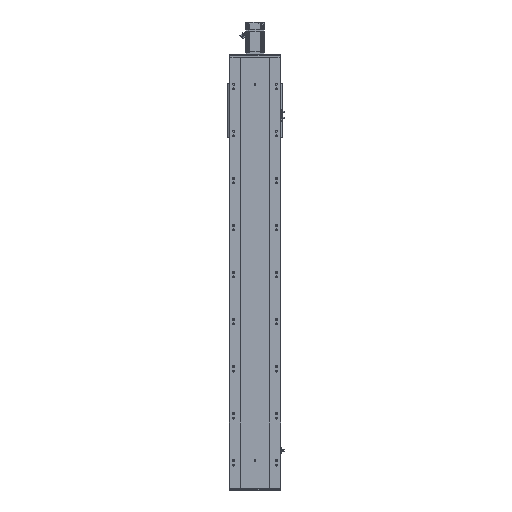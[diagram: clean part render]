
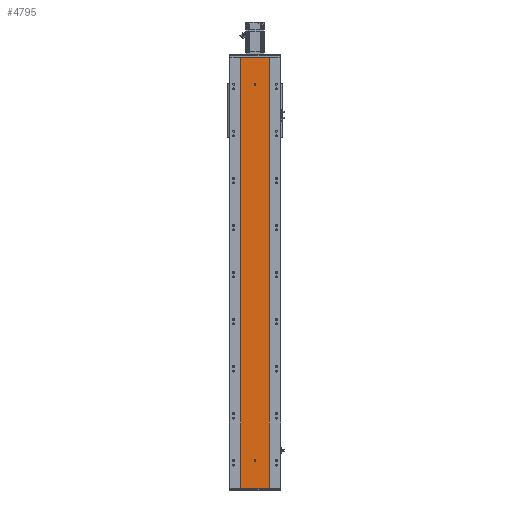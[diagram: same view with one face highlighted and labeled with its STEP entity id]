
A CAD part, front view. The second image highlights one B-rep face of the part: STEP entity #4795.
In plain terms, the highlighted planar face has unit normal (0, -1, 0).
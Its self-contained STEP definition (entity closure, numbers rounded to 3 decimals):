
#2554 = VECTOR ( 'NONE', #48215, 1000. ) ;
#3220 = EDGE_CURVE ( 'NONE', #46631, #50559, #49578, .T. ) ;
#4795 = ADVANCED_FACE ( 'NONE', ( #73198, #55766, #15214 ), #33874, .F. ) ;
#5215 = DIRECTION ( 'NONE',  ( 0., 0., -1. ) ) ;
#5734 = CARTESIAN_POINT ( 'NONE',  ( 0., 0., 1718. ) ) ;
#6494 = VERTEX_POINT ( 'NONE', #47432 ) ;
#6633 = CARTESIAN_POINT ( 'NONE',  ( 60., 0., 1832. ) ) ;
#8071 = AXIS2_PLACEMENT_3D ( 'NONE', #22478, #27140, #68258 ) ;
#8151 = DIRECTION ( 'NONE',  ( 0., -1., 0. ) ) ;
#10321 = EDGE_CURVE ( 'NONE', #6494, #26750, #31051, .T. ) ;
#10372 = ORIENTED_EDGE ( 'NONE', *, *, #56635, .F. ) ;
#11948 = ORIENTED_EDGE ( 'NONE', *, *, #45546, .F. ) ;
#13842 = VERTEX_POINT ( 'NONE', #6633 ) ;
#15214 = FACE_OUTER_BOUND ( 'NONE', #75668, .T. ) ;
#16434 = VERTEX_POINT ( 'NONE', #28429 ) ;
#17057 = DIRECTION ( 'NONE',  ( 0., -1., 0. ) ) ;
#17214 = ORIENTED_EDGE ( 'NONE', *, *, #32985, .F. ) ;
#17803 = CARTESIAN_POINT ( 'NONE',  ( 4., 0., 116.5 ) ) ;
#18108 = EDGE_CURVE ( 'NONE', #71158, #19240, #22827, .T. ) ;
#18109 = LINE ( 'NONE', #75957, #18994 ) ;
#18480 = DIRECTION ( 'NONE',  ( 0., 0., -1. ) ) ;
#18994 = VECTOR ( 'NONE', #47211, 1000. ) ;
#19240 = VERTEX_POINT ( 'NONE', #42285 ) ;
#19735 = EDGE_CURVE ( 'NONE', #19240, #71158, #47469, .T. ) ;
#20590 = AXIS2_PLACEMENT_3D ( 'NONE', #5734, #17057, #5215 ) ;
#22478 = CARTESIAN_POINT ( 'NONE',  ( 0., 0., 116.5 ) ) ;
#22522 = EDGE_LOOP ( 'NONE', ( #36994, #64650 ) ) ;
#22827 = CIRCLE ( 'NONE', #20590, 4. ) ;
#23961 = VERTEX_POINT ( 'NONE', #76309 ) ;
#25865 = DIRECTION ( 'NONE',  ( 0., 0., -1. ) ) ;
#26630 = DIRECTION ( 'NONE',  ( 0., -1., 0. ) ) ;
#26750 = VERTEX_POINT ( 'NONE', #70535 ) ;
#26793 = CARTESIAN_POINT ( 'NONE',  ( 0., 0., 1714. ) ) ;
#27140 = DIRECTION ( 'NONE',  ( 0., -1., 0. ) ) ;
#28429 = CARTESIAN_POINT ( 'NONE',  ( 4., 0., 119.5 ) ) ;
#28481 = AXIS2_PLACEMENT_3D ( 'NONE', #51711, #42201, #18480 ) ;
#29605 = LINE ( 'NONE', #72611, #62712 ) ;
#29930 = CARTESIAN_POINT ( 'NONE',  ( -60., 0., 0. ) ) ;
#31051 = CIRCLE ( 'NONE', #60574, 4. ) ;
#32985 = EDGE_CURVE ( 'NONE', #64820, #13842, #18109, .T. ) ;
#33305 = LINE ( 'NONE', #61278, #52615 ) ;
#33344 = CARTESIAN_POINT ( 'NONE',  ( -60., 0., 0. ) ) ;
#33874 = PLANE ( 'NONE',  #50023 ) ;
#34424 = ORIENTED_EDGE ( 'NONE', *, *, #75510, .F. ) ;
#35442 = CARTESIAN_POINT ( 'NONE',  ( -60., 0., 1832. ) ) ;
#35569 = CARTESIAN_POINT ( 'NONE',  ( 4., 0., 116.5 ) ) ;
#36994 = ORIENTED_EDGE ( 'NONE', *, *, #18108, .F. ) ;
#37318 = ORIENTED_EDGE ( 'NONE', *, *, #70830, .F. ) ;
#39037 = VECTOR ( 'NONE', #67974, 1000. ) ;
#39223 = ORIENTED_EDGE ( 'NONE', *, *, #10321, .F. ) ;
#39702 = ORIENTED_EDGE ( 'NONE', *, *, #64368, .T. ) ;
#40624 = AXIS2_PLACEMENT_3D ( 'NONE', #43435, #8151, #49362 ) ;
#40663 = CARTESIAN_POINT ( 'NONE',  ( -60., 0., 1832. ) ) ;
#42201 = DIRECTION ( 'NONE',  ( 0., -1., 0. ) ) ;
#42285 = CARTESIAN_POINT ( 'NONE',  ( 0., 0., 1722. ) ) ;
#42314 = ORIENTED_EDGE ( 'NONE', *, *, #3220, .T. ) ;
#43435 = CARTESIAN_POINT ( 'NONE',  ( 0., 0., 119.5 ) ) ;
#44384 = VECTOR ( 'NONE', #63858, 1000. ) ;
#45546 = EDGE_CURVE ( 'NONE', #23961, #6494, #29605, .T. ) ;
#46631 = VERTEX_POINT ( 'NONE', #33344 ) ;
#47211 = DIRECTION ( 'NONE',  ( 1., 0., 0. ) ) ;
#47250 = DIRECTION ( 'NONE',  ( 0., 1., 0. ) ) ;
#47432 = CARTESIAN_POINT ( 'NONE',  ( -4., 0., 116.5 ) ) ;
#47469 = CIRCLE ( 'NONE', #28481, 4. ) ;
#48215 = DIRECTION ( 'NONE',  ( 1., 0., 0. ) ) ;
#49362 = DIRECTION ( 'NONE',  ( 0., 0., -1. ) ) ;
#49578 = LINE ( 'NONE', #29930, #2554 ) ;
#50023 = AXIS2_PLACEMENT_3D ( 'NONE', #35442, #47250, #52877 ) ;
#50559 = VERTEX_POINT ( 'NONE', #53583 ) ;
#51256 = DIRECTION ( 'NONE',  ( 0., 0., -1. ) ) ;
#51602 = EDGE_CURVE ( 'NONE', #13842, #50559, #54635, .T. ) ;
#51711 = CARTESIAN_POINT ( 'NONE',  ( 0., 0., 1718. ) ) ;
#52615 = VECTOR ( 'NONE', #51256, 1000. ) ;
#52877 = DIRECTION ( 'NONE',  ( 0., 0., 1. ) ) ;
#53583 = CARTESIAN_POINT ( 'NONE',  ( 60., 0., 0. ) ) ;
#54635 = LINE ( 'NONE', #68486, #39037 ) ;
#55766 = FACE_BOUND ( 'NONE', #71944, .T. ) ;
#56635 = EDGE_CURVE ( 'NONE', #16434, #23961, #61179, .T. ) ;
#60574 = AXIS2_PLACEMENT_3D ( 'NONE', #61072, #26630, #25865 ) ;
#60819 = DIRECTION ( 'NONE',  ( 0., 0., -1. ) ) ;
#61072 = CARTESIAN_POINT ( 'NONE',  ( 0., 0., 116.5 ) ) ;
#61179 = CIRCLE ( 'NONE', #40624, 4. ) ;
#61278 = CARTESIAN_POINT ( 'NONE',  ( -60., 0., 1832. ) ) ;
#62712 = VECTOR ( 'NONE', #60819, 1000. ) ;
#63142 = CIRCLE ( 'NONE', #8071, 4. ) ;
#63858 = DIRECTION ( 'NONE',  ( 0., 0., 1. ) ) ;
#64368 = EDGE_CURVE ( 'NONE', #64820, #46631, #33305, .T. ) ;
#64650 = ORIENTED_EDGE ( 'NONE', *, *, #19735, .F. ) ;
#64820 = VERTEX_POINT ( 'NONE', #40663 ) ;
#67974 = DIRECTION ( 'NONE',  ( 0., 0., -1. ) ) ;
#68243 = LINE ( 'NONE', #17803, #44384 ) ;
#68258 = DIRECTION ( 'NONE',  ( 0., 0., -1. ) ) ;
#68486 = CARTESIAN_POINT ( 'NONE',  ( 60., 0., 1832. ) ) ;
#70535 = CARTESIAN_POINT ( 'NONE',  ( 0., 0., 112.5 ) ) ;
#70830 = EDGE_CURVE ( 'NONE', #73102, #16434, #68243, .T. ) ;
#71158 = VERTEX_POINT ( 'NONE', #26793 ) ;
#71944 = EDGE_LOOP ( 'NONE', ( #37318, #34424, #39223, #11948, #10372 ) ) ;
#72611 = CARTESIAN_POINT ( 'NONE',  ( -4., 0., 116.5 ) ) ;
#73036 = ORIENTED_EDGE ( 'NONE', *, *, #51602, .F. ) ;
#73102 = VERTEX_POINT ( 'NONE', #35569 ) ;
#73198 = FACE_BOUND ( 'NONE', #22522, .T. ) ;
#75510 = EDGE_CURVE ( 'NONE', #26750, #73102, #63142, .T. ) ;
#75668 = EDGE_LOOP ( 'NONE', ( #42314, #73036, #17214, #39702 ) ) ;
#75957 = CARTESIAN_POINT ( 'NONE',  ( -60., 0., 1832. ) ) ;
#76309 = CARTESIAN_POINT ( 'NONE',  ( -4., 0., 119.5 ) ) ;
